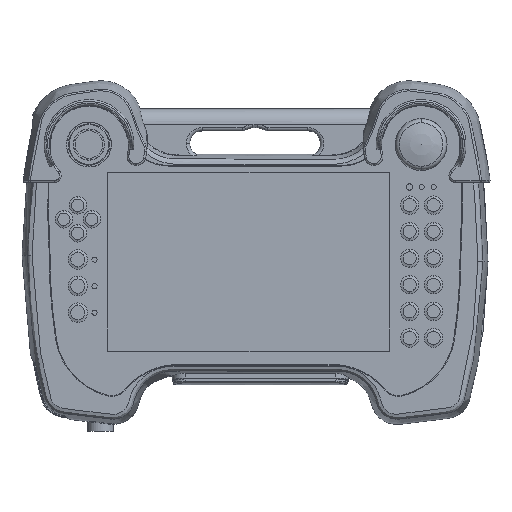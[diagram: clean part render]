
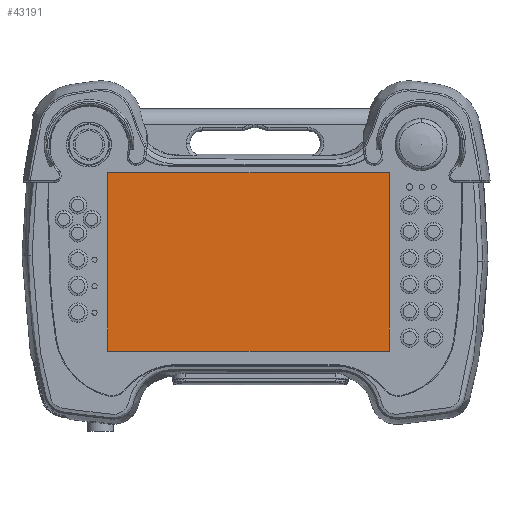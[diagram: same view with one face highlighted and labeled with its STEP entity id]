
A CAD part, front view. The second image highlights one B-rep face of the part: STEP entity #43191.
In plain terms, the highlighted planar face has unit normal (0, -1, 0).
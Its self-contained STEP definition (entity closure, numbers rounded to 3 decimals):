
#43080 = EDGE_CURVE ( 'NONE', #43221, #43113, #85302, .T. ) ;
#43095 = VERTEX_POINT ( 'NONE', #85288 ) ;
#43097 = EDGE_CURVE ( 'NONE', #43098, #43095, #85287, .T. ) ;
#43098 = VERTEX_POINT ( 'NONE', #85283 ) ;
#43113 = VERTEX_POINT ( 'NONE', #85335 ) ;
#43186 = EDGE_CURVE ( 'NONE', #43221, #43098, #85350, .T. ) ;
#43191 = ADVANCED_FACE ( 'NONE', ( #85351 ), #85374, .F. ) ;
#43194 = EDGE_LOOP ( 'NONE', ( #43195, #43197, #43199, #43201 ) ) ;
#43195 = ORIENTED_EDGE ( 'NONE', *, *, #43097, .T. ) ;
#43197 = ORIENTED_EDGE ( 'NONE', *, *, #43207, .T. ) ;
#43199 = ORIENTED_EDGE ( 'NONE', *, *, #43080, .F. ) ;
#43201 = ORIENTED_EDGE ( 'NONE', *, *, #43186, .T. ) ;
#43207 = EDGE_CURVE ( 'NONE', #43095, #43113, #85369, .T. ) ;
#43221 = VERTEX_POINT ( 'NONE', #85411 ) ;
#85283 = CARTESIAN_POINT ( 'NONE',  ( 77.75, -16.148, 176.172 ) ) ;
#85284 = DIRECTION ( 'NONE',  ( -1., 0., 0. ) ) ;
#85285 = VECTOR ( 'NONE', #85284, 1000. ) ;
#85286 = CARTESIAN_POINT ( 'NONE',  ( -121.044, -16.148, 176.172 ) ) ;
#85287 = LINE ( 'NONE', #85286, #85285 ) ;
#85288 = CARTESIAN_POINT ( 'NONE',  ( -85.35, -16.148, 176.172 ) ) ;
#85299 = DIRECTION ( 'NONE',  ( -1., 0., 0. ) ) ;
#85300 = VECTOR ( 'NONE', #85299, 1000. ) ;
#85301 = CARTESIAN_POINT ( 'NONE',  ( -121.044, -16.148, 72.972 ) ) ;
#85302 = LINE ( 'NONE', #85301, #85300 ) ;
#85335 = CARTESIAN_POINT ( 'NONE',  ( -85.35, -16.148, 72.972 ) ) ;
#85350 = LINE ( 'NONE', #85354, #85353 ) ;
#85351 = FACE_OUTER_BOUND ( 'NONE', #43194, .T. ) ;
#85352 = DIRECTION ( 'NONE',  ( 0., 0., 1. ) ) ;
#85353 = VECTOR ( 'NONE', #85352, 1000. ) ;
#85354 = CARTESIAN_POINT ( 'NONE',  ( 77.75, -16.148, 46.056 ) ) ;
#85367 = DIRECTION ( 'NONE',  ( 0., 0., -1. ) ) ;
#85368 = CARTESIAN_POINT ( 'NONE',  ( -85.35, -16.148, 46.056 ) ) ;
#85369 = LINE ( 'NONE', #85368, #85422 ) ;
#85370 = DIRECTION ( 'NONE',  ( 0., 0., 1. ) ) ;
#85371 = DIRECTION ( 'NONE',  ( 0., 1., 0. ) ) ;
#85372 = CARTESIAN_POINT ( 'NONE',  ( -121.044, -16.148, 46.056 ) ) ;
#85373 = AXIS2_PLACEMENT_3D ( 'NONE', #85372, #85371, #85370 ) ;
#85374 = PLANE ( 'NONE',  #85373 ) ;
#85411 = CARTESIAN_POINT ( 'NONE',  ( 77.75, -16.148, 72.972 ) ) ;
#85422 = VECTOR ( 'NONE', #85367, 1000. ) ;
